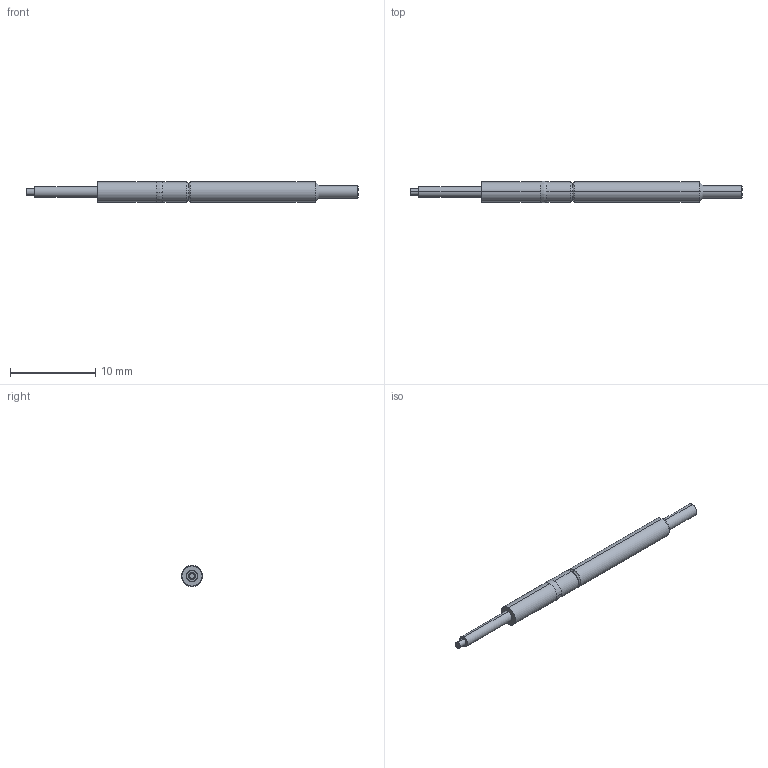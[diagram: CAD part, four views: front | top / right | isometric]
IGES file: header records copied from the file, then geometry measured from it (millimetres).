
Start section: SolidWorks IGES file using analytic representation for surfaces
Global section: file name: Z:\probe solid model mockups\Solidworks models\IGES Files\SPL-03C-090\SPL-03C-090.IGS; native system: SolidWorks 2006 by SolidWorks Corporation; preprocessor: SolidWorks 2006 by SolidWorks Corporation; author: tsakatani; date: 071221.103313; units: inch
Bounding box: 38.86 x 2.49 x 2.45 mm (x, y, z)
Surface area: 253.5 mm2 (no closed solid volume)
Topology: 0 solids, 0 shells, 27 faces, 240 edges, 240 vertices
Faces by surface type: revolution 18, bspline 9
